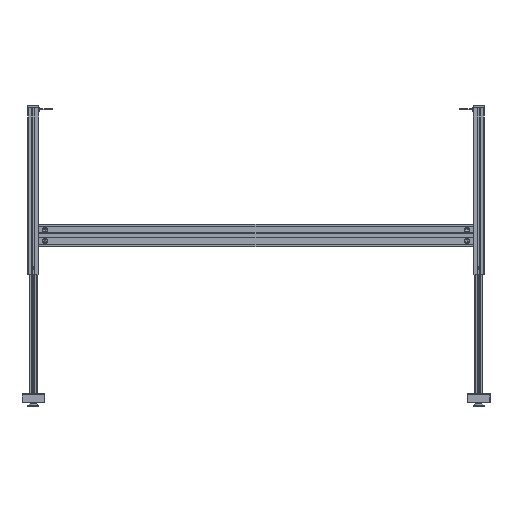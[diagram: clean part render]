
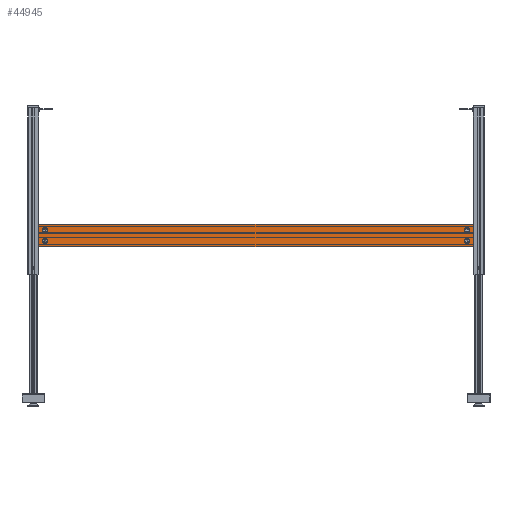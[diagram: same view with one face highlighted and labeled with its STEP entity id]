
A CAD part, left-side view. The second image highlights one B-rep face of the part: STEP entity #44945.
In plain terms, the highlighted planar face has unit normal (-1, 0, 0) as drawn and (1, 0, 0) by its records, which use the part's own axes.
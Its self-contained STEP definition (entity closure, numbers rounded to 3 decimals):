
#3001=CIRCLE('',#57373,9.);
#3002=CIRCLE('',#57374,9.);
#3003=CIRCLE('',#57375,9.);
#3004=CIRCLE('',#57376,9.);
#14803=ORIENTED_EDGE('',*,*,#22067,.T.);
#14804=ORIENTED_EDGE('',*,*,#22068,.T.);
#14805=ORIENTED_EDGE('',*,*,#22069,.T.);
#14806=ORIENTED_EDGE('',*,*,#22070,.T.);
#14807=ORIENTED_EDGE('',*,*,#22071,.T.);
#14808=ORIENTED_EDGE('',*,*,#22072,.F.);
#14809=ORIENTED_EDGE('',*,*,#22073,.T.);
#14810=ORIENTED_EDGE('',*,*,#22074,.T.);
#22067=EDGE_CURVE('',#26709,#26709,#3001,.T.);
#22068=EDGE_CURVE('',#26710,#26710,#3002,.T.);
#22069=EDGE_CURVE('',#26711,#26712,#31270,.T.);
#22070=EDGE_CURVE('',#26712,#26713,#31271,.T.);
#22071=EDGE_CURVE('',#26713,#26714,#31272,.T.);
#22072=EDGE_CURVE('',#26711,#26714,#31273,.T.);
#22073=EDGE_CURVE('',#26715,#26715,#3003,.T.);
#22074=EDGE_CURVE('',#26716,#26716,#3004,.T.);
#26709=VERTEX_POINT('',#83052);
#26710=VERTEX_POINT('',#83054);
#26711=VERTEX_POINT('',#83056);
#26712=VERTEX_POINT('',#83057);
#26713=VERTEX_POINT('',#83059);
#26714=VERTEX_POINT('',#83061);
#26715=VERTEX_POINT('',#83064);
#26716=VERTEX_POINT('',#83066);
#31270=LINE('',#83055,#35751);
#31271=LINE('',#83058,#35752);
#31272=LINE('',#83060,#35753);
#31273=LINE('',#83062,#35754);
#35751=VECTOR('',#69175,1000.);
#35752=VECTOR('',#69176,1000.);
#35753=VECTOR('',#69177,1000.);
#35754=VECTOR('',#69178,1000.);
#38343=EDGE_LOOP('',(#14803));
#38344=EDGE_LOOP('',(#14804));
#38345=EDGE_LOOP('',(#14805,#14806,#14807,#14808));
#38346=EDGE_LOOP('',(#14809));
#38347=EDGE_LOOP('',(#14810));
#40974=FACE_BOUND('',#38343,.T.);
#40975=FACE_BOUND('',#38344,.T.);
#40976=FACE_BOUND('',#38345,.T.);
#40977=FACE_BOUND('',#38346,.T.);
#40978=FACE_BOUND('',#38347,.T.);
#42734=PLANE('',#57372);
#44945=ADVANCED_FACE('',(#40974,#40975,#40976,#40977,#40978),#42734,.T.);
#57372=AXIS2_PLACEMENT_3D('',#83050,#69169,#69170);
#57373=AXIS2_PLACEMENT_3D('',#83051,#69171,#69172);
#57374=AXIS2_PLACEMENT_3D('',#83053,#69173,#69174);
#57375=AXIS2_PLACEMENT_3D('',#83063,#69179,#69180);
#57376=AXIS2_PLACEMENT_3D('',#83065,#69181,#69182);
#69169=DIRECTION('',(1.,0.,0.));
#69170=DIRECTION('',(0.,1.,0.));
#69171=DIRECTION('',(-1.,0.,0.));
#69172=DIRECTION('',(0.,0.,1.));
#69173=DIRECTION('',(-1.,0.,0.));
#69174=DIRECTION('',(0.,0.,1.));
#69175=DIRECTION('',(0.,1.,0.));
#69176=DIRECTION('',(0.,0.,1.));
#69177=DIRECTION('',(0.,-1.,0.));
#69178=DIRECTION('',(0.,0.,1.));
#69179=DIRECTION('',(-1.,0.,0.));
#69180=DIRECTION('',(0.,0.,1.));
#69181=DIRECTION('',(-1.,0.,0.));
#69182=DIRECTION('',(0.,0.,1.));
#83050=CARTESIAN_POINT('',(40.,80.,-1.));
#83051=CARTESIAN_POINT('',(40.,60.,1527.5));
#83052=CARTESIAN_POINT('',(40.,60.,1536.5));
#83053=CARTESIAN_POINT('',(40.,60.,22.5));
#83054=CARTESIAN_POINT('',(40.,60.,31.5));
#83055=CARTESIAN_POINT('',(40.,80.,0.));
#83056=CARTESIAN_POINT('',(40.,0.,0.));
#83057=CARTESIAN_POINT('',(40.,80.,0.));
#83058=CARTESIAN_POINT('',(40.,80.,-1.));
#83059=CARTESIAN_POINT('',(40.,80.,1550.));
#83060=CARTESIAN_POINT('',(40.,40.,1550.));
#83061=CARTESIAN_POINT('',(40.,0.,1550.));
#83062=CARTESIAN_POINT('',(40.,0.,-1.));
#83063=CARTESIAN_POINT('',(40.,20.,1527.5));
#83064=CARTESIAN_POINT('',(40.,20.,1536.5));
#83065=CARTESIAN_POINT('',(40.,20.,22.5));
#83066=CARTESIAN_POINT('',(40.,20.,31.5));
